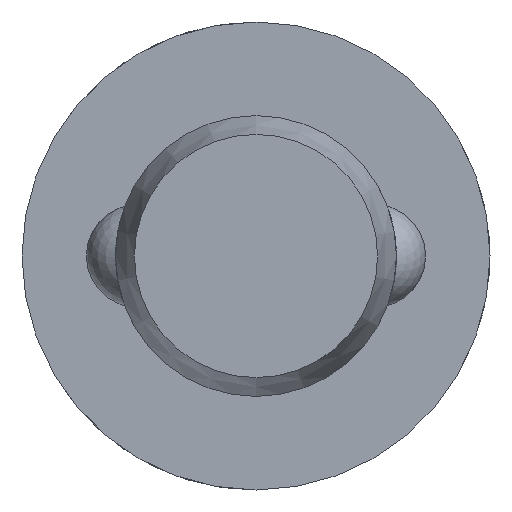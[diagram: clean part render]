
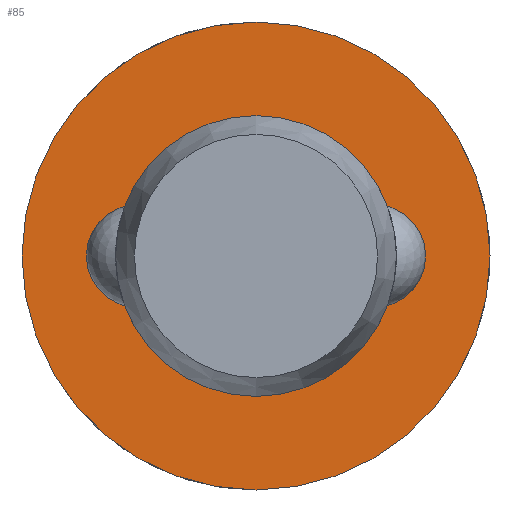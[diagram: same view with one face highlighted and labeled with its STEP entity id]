
A CAD part, left-side view. The second image highlights one B-rep face of the part: STEP entity #85.
In plain terms, the highlighted planar face has unit normal (-1, 0, 0).
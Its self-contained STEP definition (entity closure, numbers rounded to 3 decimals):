
#85 = ADVANCED_FACE( '', ( #130, #131 ), #132, .F. );
#130 = FACE_OUTER_BOUND( '', #201, .T. );
#131 = FACE_BOUND( '', #202, .T. );
#132 = PLANE( '', #203 );
#201 = EDGE_LOOP( '', ( #317 ) );
#202 = EDGE_LOOP( '', ( #318 ) );
#203 = AXIS2_PLACEMENT_3D( '', #319, #320, #321 );
#317 = ORIENTED_EDGE( '', *, *, #461, .F. );
#318 = ORIENTED_EDGE( '', *, *, #458, .T. );
#319 = CARTESIAN_POINT( '', ( 90.6, 6., 0. ) );
#320 = DIRECTION( '', ( 1., 0., 0. ) );
#321 = DIRECTION( '', ( 0., 0., -1. ) );
#458 = EDGE_CURVE( '', #532, #532, #533, .T. );
#461 = EDGE_CURVE( '', #538, #538, #539, .T. );
#532 = VERTEX_POINT( '', #742 );
#533 = CIRCLE( '', #743, 6. );
#538 = VERTEX_POINT( '', #858 );
#539 = CIRCLE( '', #859, 10. );
#742 = CARTESIAN_POINT( '', ( 90.6, 0., -6. ) );
#743 = AXIS2_PLACEMENT_3D( '', #936, #937, #938 );
#858 = CARTESIAN_POINT( '', ( 90.6, 0., -10. ) );
#859 = AXIS2_PLACEMENT_3D( '', #939, #940, #941 );
#936 = CARTESIAN_POINT( '', ( 90.6, 0., 0. ) );
#937 = DIRECTION( '', ( 1., 0., 0. ) );
#938 = DIRECTION( '', ( 0., 0., -1. ) );
#939 = CARTESIAN_POINT( '', ( 90.6, 0., 0. ) );
#940 = DIRECTION( '', ( 1., 0., 0. ) );
#941 = DIRECTION( '', ( 0., 0., -1. ) );
